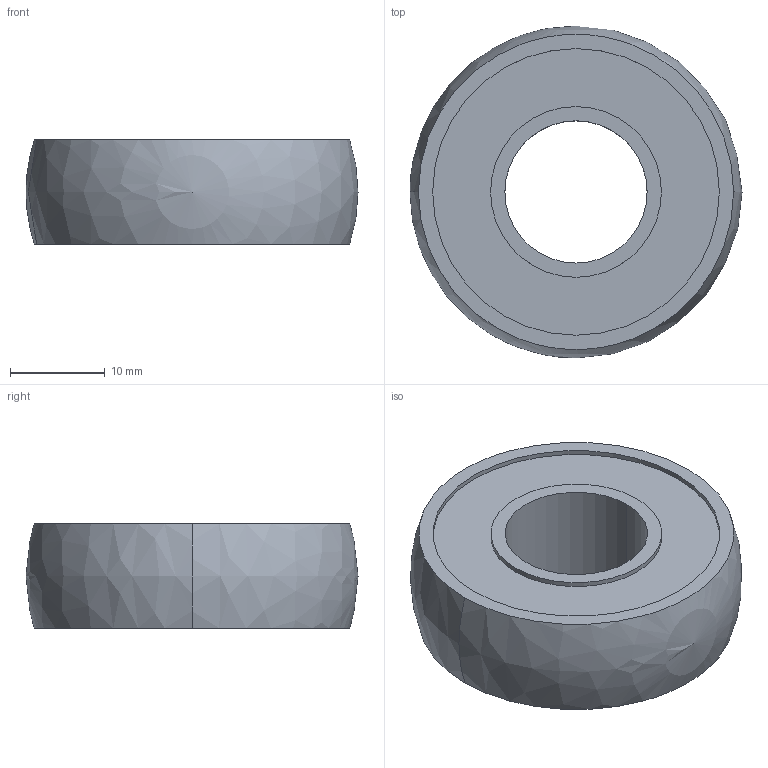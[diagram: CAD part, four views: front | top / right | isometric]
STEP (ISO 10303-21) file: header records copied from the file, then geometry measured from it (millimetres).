
FILE_DESCRIPTION (( 'STEP AP203' ), '1' );
FILE_NAME ('CB 202.STEP', '2013-01-29T10:55:23', ( 'Alusic' ), ( 'Alusic' ), 'SwSTEP 2.0', 'SolidWorks 2011', '' );
FILE_SCHEMA (( 'CONFIG_CONTROL_DESIGN' ));
Length unit declared in the file: millimetre
Products named in the file (1): CB 202
Bounding box: 35 x 35 x 11 mm (x, y, z)
Volume: 7827.8 mm3; surface area: 3260.1 mm2
Topology: 1 solids, 1 shells, 18 faces, 41 edges, 27 vertices
Faces by surface type: cylinder 10, plane 6, sphere 2
Entity records: 567 total; most frequent: DIRECTION 100, CARTESIAN_POINT 79, ORIENTED_EDGE 72, AXIS2_PLACEMENT_3D 45, EDGE_CURVE 36, CIRCLE 26, EDGE_LOOP 24, VERTEX_POINT 24
